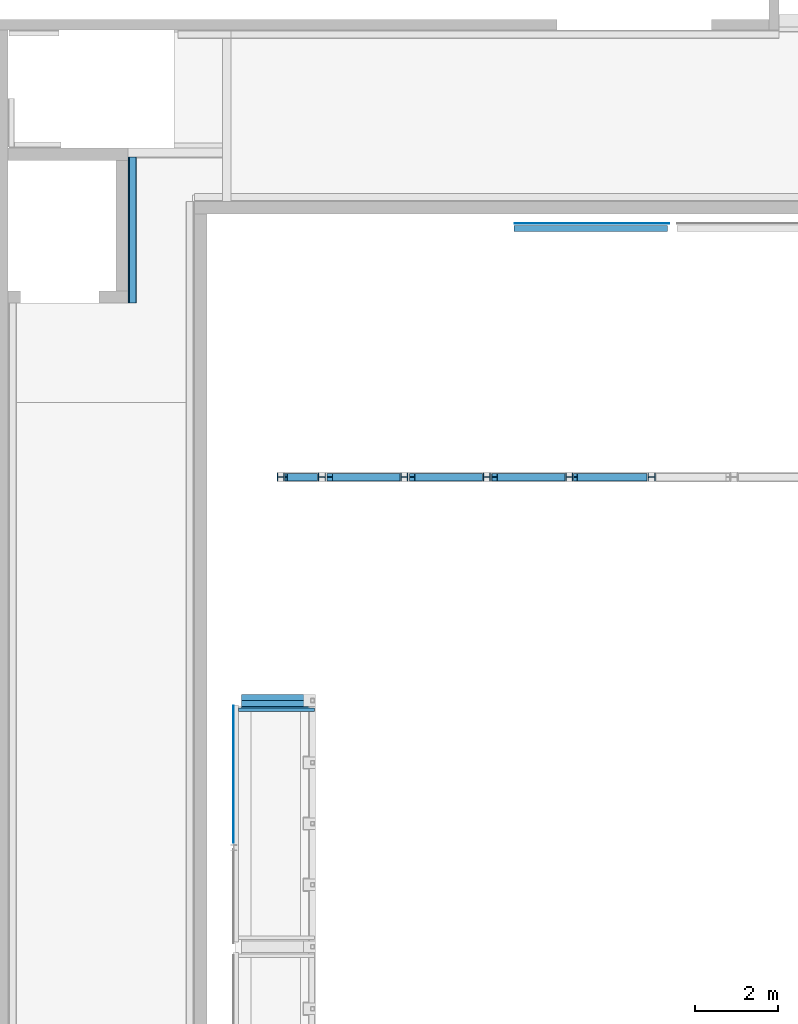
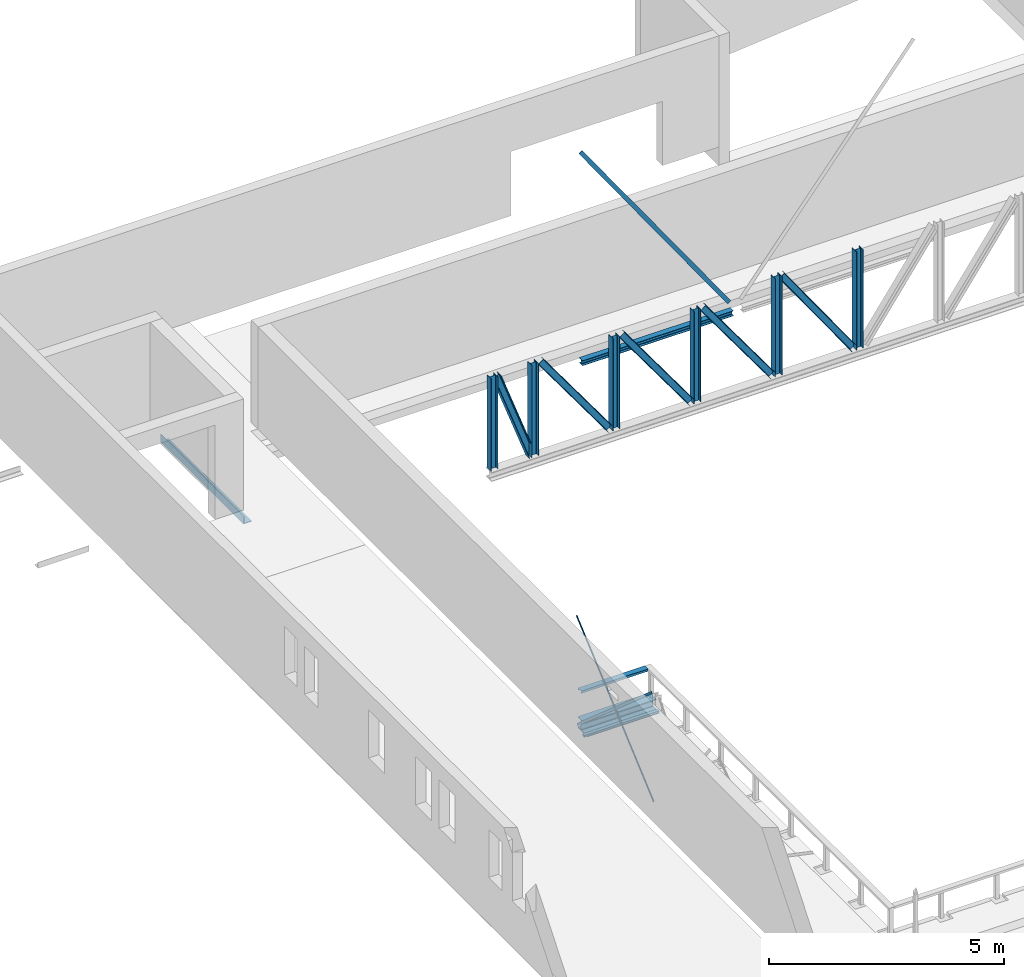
# One storey, part 19 of 68: 19 beams.
"""IFC2X3 building model written with IfcOpenShell, lengths in millimetres."""

import ifcopenshell
import ifcopenshell.guid

model = None  # the IFC model being written
_history = None  # IfcOwnerHistory: only IFC2X3 demands one
_inside = {}  # id of a spatial element -> (the spatial element, [elements in it])
_under = {}  # id of a project, library or spatial element -> (it, [spatial elements below it])
_declared = {}  # id of a project -> (the project, [libraries it declares])
_typed = {}  # id of a type object -> (the type object, [elements of that type])
_made_of = {}  # id of a material, layer set ... -> (it, [elements and type objects made of it])


def new_model(schema):
    """Start an empty IFC model of exactly this schema.

    Asked for "IFC4X3", IfcOpenShell would pick the latest addendum, in which some entities
    have other attributes; the version numbers below select the first issue.
    IFC2X3 requires an IfcOwnerHistory on every rooted entity: one is made here for all.
    """
    global model, _history
    if schema == "IFC4X3":
        model = ifcopenshell.file(schema_version=(4, 3, 0, 0))
    else:
        model = ifcopenshell.file(schema=schema)
    _inside.clear()
    _under.clear()
    _declared.clear()
    _typed.clear()
    _made_of.clear()
    _history = None
    if model.schema == "IFC2X3":
        org = make("IfcOrganization", Name="unknown")
        user = make(
            "IfcPersonAndOrganization",
            ThePerson=make("IfcPerson", FamilyName="unknown"),
            TheOrganization=org,
        )
        app = make(
            "IfcApplication",
            ApplicationDeveloper=org,
            Version="unknown",
            ApplicationFullName="unknown",
            ApplicationIdentifier="unknown",
        )
        _history = make(
            "IfcOwnerHistory",
            OwningUser=user,
            OwningApplication=app,
            ChangeAction="ADDED",
            CreationDate=0,
        )
    return model


def make(cls, **values):
    """One entity of the class cls with the attributes given. An attribute that is None is left unset."""
    return model.create_entity(
        cls, **{name: value for name, value in values.items() if value is not None}
    )


def entity(cls, *values):
    """Any entity or typed value of the class cls, its attributes in the order of the schema. None: left unset."""
    e = model.create_entity(cls)
    for i, value in enumerate(values):
        if value is not None:
            e[i] = value
    return e


def rooted(cls, **values):
    """An entity with a GlobalId (a new one), such as an element, a storey or a relation."""
    return make(cls, GlobalId=ifcopenshell.guid.new(), OwnerHistory=_history, **values)


def si_unit(unit_type, name, prefix=None):
    """IfcSIUnit, for example si_unit("LENGTHUNIT", "METRE", prefix="MILLI")."""
    return make("IfcSIUnit", UnitType=unit_type, Prefix=prefix, Name=name)


def converted_unit(unit_type, name, factor, base, dimensions=None, offset=None):
    """IfcConversionBasedUnit, such as the inch: factor (a typed value) times the base unit."""
    return make(
        "IfcConversionBasedUnit"
        if offset is None
        else "IfcConversionBasedUnitWithOffset",
        ConversionOffset=offset,
        Dimensions=None
        if dimensions is None
        else entity("IfcDimensionalExponents", *dimensions),
        UnitType=unit_type,
        Name=name,
        ConversionFactor=make(
            "IfcMeasureWithUnit", ValueComponent=factor, UnitComponent=base
        ),
    )


def derived_unit(unit_type, elements):
    """IfcDerivedUnit: a product of units, each with its exponent."""
    return make(
        "IfcDerivedUnit",
        Elements=[
            make("IfcDerivedUnitElement", Unit=unit, Exponent=power)
            for unit, power in elements
        ],
        UnitType=unit_type,
    )


def assignment(units):
    """IfcUnitAssignment: the units of a project."""
    return None if units is None else make("IfcUnitAssignment", Units=units)


def point(xyz):
    """IfcCartesianPoint."""
    return None if xyz is None else make("IfcCartesianPoint", Coordinates=xyz)


def direction(xyz):
    """IfcDirection."""
    return None if xyz is None else make("IfcDirection", DirectionRatios=xyz)


def frame(location, z_axis=None, x_axis=None):
    """IfcAxis2Placement3D, a coordinate frame: its origin and axes. An axis left out is left unset."""
    return make(
        "IfcAxis2Placement3D",
        Location=point(location),
        Axis=direction(z_axis),
        RefDirection=direction(x_axis),
    )


def frame_2d(location, x_axis=None):
    """IfcAxis2Placement2D, a coordinate frame in the plane: its origin and x axis."""
    return make(
        "IfcAxis2Placement2D", Location=point(location), RefDirection=direction(x_axis)
    )


def origin():
    """The frame at (0, 0, 0) with its axes left unset."""
    return frame((0.0, 0.0, 0.0))


def place(relative_to, where):
    """IfcLocalPlacement: puts the frame where relative to a parent placement (None: the world)."""
    return make(
        "IfcLocalPlacement", PlacementRelTo=relative_to, RelativePlacement=where
    )


def context(
    kind, dimensions, precision=None, world=None, true_north=None, identifier=None
):
    """IfcGeometricRepresentationContext, for example the 3D "Model" context."""
    return make(
        "IfcGeometricRepresentationContext",
        ContextIdentifier=identifier,
        ContextType=kind,
        CoordinateSpaceDimension=dimensions,
        Precision=precision,
        WorldCoordinateSystem=world,
        TrueNorth=true_north,
    )


def subcontext(parent, identifier, kind, view, scale=None):
    """IfcGeometricRepresentationSubContext, for example "Body" below "Model"."""
    return make(
        "IfcGeometricRepresentationSubContext",
        ContextIdentifier=identifier,
        ContextType=kind,
        ParentContext=parent,
        TargetScale=scale,
        TargetView=view,
    )


def project(units=None, contexts=None):
    """IfcProject with its units and contexts."""
    return rooted(
        "IfcProject",
        Name="project",
        RepresentationContexts=contexts,
        UnitsInContext=assignment(units),
    )


def spatial(cls, under=None, at=None, **own):
    """A site, building, storey or space (cls), placed at a placement, below another one or the project."""
    s = rooted(cls, ObjectPlacement=at, **own)
    if under is not None:
        _under.setdefault(under.id(), (under, []))[1].append(s)
    return s


def polyline(points):
    """IfcPolyline through the points."""
    return make("IfcPolyline", Points=[point(p) for p in points])


def circle_curve(where, radius):
    """IfcCircle in the frame where."""
    return make("IfcCircle", Position=where, Radius=radius)


def parameter(value):
    """IfcParameterValue: where a trimmed curve begins or ends, as a parameter of its basis curve."""
    return model.create_entity("IfcParameterValue", value)


def trimmed(basis, trim1, trim2, sense, master):
    """IfcTrimmedCurve: the piece of a basis curve between two trims."""
    return make(
        "IfcTrimmedCurve",
        BasisCurve=basis,
        Trim1=trim1,
        Trim2=trim2,
        SenseAgreement=sense,
        MasterRepresentation=master,
    )


def segment(curve, same_sense, transition):
    """IfcCompositeCurveSegment."""
    return make(
        "IfcCompositeCurveSegment",
        Transition=transition,
        SameSense=same_sense,
        ParentCurve=curve,
    )


def composite_curve(segments, self_intersect=None):
    """IfcCompositeCurve: segments joined end to end."""
    return make("IfcCompositeCurve", Segments=segments, SelfIntersect=self_intersect)


def profile(cls, at=None, kind="AREA", **sizes):
    """A parametric profile (cls). Its sizes go by their IFC names, for example OverallWidth=200.0."""
    return make(cls, ProfileType=kind, Position=at, **sizes)


def rectangle(**sizes):
    """IfcRectangleProfileDef."""
    return profile("IfcRectangleProfileDef", **sizes)


def i_section(**sizes):
    """IfcIShapeProfileDef."""
    return profile("IfcIShapeProfileDef", **sizes)


def outline(outer, holes=None, kind="AREA"):
    """IfcArbitraryClosedProfileDef: a profile drawn as a closed curve; with holes, ...WithVoids."""
    if holes is None:
        return make("IfcArbitraryClosedProfileDef", ProfileType=kind, OuterCurve=outer)
    return make(
        "IfcArbitraryProfileDefWithVoids",
        ProfileType=kind,
        OuterCurve=outer,
        InnerCurves=holes,
    )


def extrude(swept, where, along, depth):
    """IfcExtrudedAreaSolid: the profile swept, set in the frame where, extruded along a direction by depth."""
    return make(
        "IfcExtrudedAreaSolid",
        SweptArea=swept,
        Position=where,
        ExtrudedDirection=direction(along),
        Depth=depth,
    )


def clip(a, b, op="DIFFERENCE"):
    """IfcBooleanClippingResult: the solid a cut by the half space b."""
    return make(
        "IfcBooleanClippingResult", Operator=op, FirstOperand=a, SecondOperand=b
    )


def halfspace(plane, agree):
    """IfcHalfSpaceSolid: all space on one side of the plane z = 0 of the frame plane."""
    return make(
        "IfcHalfSpaceSolid",
        BaseSurface=make("IfcPlane", Position=plane),
        AgreementFlag=agree,
    )


def shape(context_of_items, identifier, shape_type, items):
    """IfcShapeRepresentation: the items that make up one representation, for example the "Body"."""
    return make(
        "IfcShapeRepresentation",
        ContextOfItems=context_of_items,
        RepresentationIdentifier=identifier,
        RepresentationType=shape_type,
        Items=items,
    )


def source(mapping_origin, context_of_items, identifier, shape_type, items):
    """IfcRepresentationMap: a shape defined once, which mapped items show again and again."""
    return make(
        "IfcRepresentationMap",
        MappingOrigin=mapping_origin,
        MappedRepresentation=shape(context_of_items, identifier, shape_type, items),
    )


def transform(
    local_origin,
    x_axis=None,
    y_axis=None,
    z_axis=None,
    scale=None,
    scale2=None,
    scale3=None,
    uniform=True,
):
    """IfcCartesianTransformationOperator3D, or its non-uniform kind. x_axis, y_axis, z_axis: its Axis1, 2, 3."""
    if uniform:
        return make(
            "IfcCartesianTransformationOperator3D",
            Axis1=direction(x_axis),
            Axis2=direction(y_axis),
            LocalOrigin=point(local_origin),
            Scale=scale,
            Axis3=direction(z_axis),
        )
    return make(
        "IfcCartesianTransformationOperator3DnonUniform",
        Axis1=direction(x_axis),
        Axis2=direction(y_axis),
        LocalOrigin=point(local_origin),
        Scale=scale,
        Axis3=direction(z_axis),
        Scale2=scale2,
        Scale3=scale3,
    )


def mapped(mapping_source, mapping_target):
    """IfcMappedItem: shows the shape of a source again, moved by a transform."""
    return make(
        "IfcMappedItem", MappingSource=mapping_source, MappingTarget=mapping_target
    )


def material(Name=None, Category=None):
    """IfcMaterial."""
    return make("IfcMaterial", Name=Name, Category=Category)


def material_list(materials):
    """IfcMaterialList."""
    return make("IfcMaterialList", Materials=materials)


def made_of(thing, what):
    """Note that an element or type object is made of a material, layer set ...; save() writes the relation."""
    if what is not None:
        _made_of.setdefault(what.id(), (what, []))[1].append(thing)
    return thing


def type_object(cls, material=None, **own):
    """A type object (cls), such as IfcWallType, which elements share."""
    return made_of(rooted(cls, **own), material)


def type_shapes(of_type, sources):
    """Give a type object the sources (RepresentationMaps) that its elements show as mapped items."""
    of_type.RepresentationMaps = sources


def element(
    cls,
    number,
    at=None,
    inside=None,
    cuts=None,
    type_object=None,
    material=None,
    context=None,
    identifier="Body",
    shape_type=None,
    held_by="IfcProductDefinitionShape",
    body=None,
    shapes=None,
    **own,
):
    """One element of the class cls, such as IfcWall. Its Tag is "e" and its number.

    at: its placement. inside: the storey or other place that contains it. cuts: it is an
    opening in that element (IfcRelVoidsElement). A single representation is given by context,
    identifier, shape_type and body (its items); several are given by shapes. held_by: the class
    of the entity that holds the representations. save() writes the other relations.
    """
    e = rooted(cls, Tag="e%d" % number, ObjectPlacement=at, **own)
    if body is not None:
        shapes = [shape(context, identifier, shape_type, body)]
    if shapes is not None:
        e.Representation = make(held_by, Representations=shapes)
    if inside is not None:
        _inside.setdefault(inside.id(), (inside, []))[1].append(e)
    if cuts is not None:
        rooted(
            "IfcRelVoidsElement", RelatingBuildingElement=cuts, RelatedOpeningElement=e
        )
    if type_object is not None:
        _typed.setdefault(type_object.id(), (type_object, []))[1].append(e)
    return made_of(e, material)


def aggregate(whole, parts):
    """IfcRelAggregates: a whole, such as a stair, and the parts it consists of."""
    return rooted("IfcRelAggregates", RelatingObject=whole, RelatedObjects=parts)


def save(model, path):
    """Write the relations noted so far, then the file.

    IfcRelAggregates (storeys below a building ...), IfcRelContainedInSpatialStructure (elements
    in a storey), IfcRelDefinesByType, IfcRelAssociatesMaterial and IfcRelDeclares: one each for
    every whole, place, type object, material and project.
    """
    for whole, parts in _under.values():
        aggregate(whole, parts)
    for where, things in _inside.values():
        rooted(
            "IfcRelContainedInSpatialStructure",
            RelatedElements=things,
            RelatingStructure=where,
        )
    for kind, things in _typed.values():
        rooted("IfcRelDefinesByType", RelatedObjects=things, RelatingType=kind)
    for what, things in _made_of.values():
        rooted("IfcRelAssociatesMaterial", RelatedObjects=things, RelatingMaterial=what)
    for by, libraries in _declared.values():
        rooted("IfcRelDeclares", RelatingContext=by, RelatedDefinitions=libraries)
    model.write(path)


model = new_model("IFC2X3")

# Units and contexts
model_context = context("Model", 3, precision=0.01, world=origin(), true_north=direction((6.12303176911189e-17, 1.0)))
body_context = subcontext(model_context, "Body", "Model", "MODEL_VIEW")
ifc_project = project(units=[si_unit("LENGTHUNIT", "METRE", prefix="MILLI"), si_unit("AREAUNIT", "SQUARE_METRE", prefix="MILLI"), si_unit("VOLUMEUNIT", "CUBIC_METRE"), converted_unit("PLANEANGLEUNIT", "DEGREE", entity("IfcRatioMeasure", 0.0174532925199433), si_unit("PLANEANGLEUNIT", "RADIAN"), dimensions=[0, 0, 0, 0, 0, 0, 0]), si_unit("MASSUNIT", "GRAM", prefix="KILO"), derived_unit("MASSDENSITYUNIT", [(si_unit("MASSUNIT", "GRAM", prefix="KILO"), 1), (si_unit("LENGTHUNIT", "METRE"), -3)]), derived_unit("MOMENTOFINERTIAUNIT", [(si_unit("LENGTHUNIT", "METRE"), 4)]), si_unit("TIMEUNIT", "SECOND"), si_unit("FREQUENCYUNIT", "HERTZ"), si_unit("THERMODYNAMICTEMPERATUREUNIT", "DEGREE_CELSIUS"), derived_unit("THERMALTRANSMITTANCEUNIT", [(si_unit("MASSUNIT", "GRAM", prefix="KILO"), 1), (si_unit("THERMODYNAMICTEMPERATUREUNIT", "KELVIN"), -1), (si_unit("TIMEUNIT", "SECOND"), -3)]), derived_unit("VOLUMETRICFLOWRATEUNIT", [(si_unit("LENGTHUNIT", "METRE"), 3), (si_unit("TIMEUNIT", "SECOND"), -1)]), si_unit("ELECTRICCURRENTUNIT", "AMPERE"), si_unit("ELECTRICVOLTAGEUNIT", "VOLT"), si_unit("POWERUNIT", "WATT"), si_unit("FORCEUNIT", "NEWTON", prefix="KILO"), si_unit("ILLUMINANCEUNIT", "LUX"), si_unit("LUMINOUSFLUXUNIT", "LUMEN"), si_unit("LUMINOUSINTENSITYUNIT", "CANDELA"), derived_unit("USERDEFINED", [(si_unit("MASSUNIT", "GRAM", prefix="KILO"), -1), (si_unit("LENGTHUNIT", "METRE"), -2), (si_unit("TIMEUNIT", "SECOND"), 3), (si_unit("LUMINOUSFLUXUNIT", "LUMEN"), 1)]), derived_unit("LINEARVELOCITYUNIT", [(si_unit("LENGTHUNIT", "METRE"), 1), (si_unit("TIMEUNIT", "SECOND"), -1)]), si_unit("PRESSUREUNIT", "PASCAL"), derived_unit("USERDEFINED", [(si_unit("LENGTHUNIT", "METRE"), -2), (si_unit("MASSUNIT", "GRAM", prefix="KILO"), 1), (si_unit("TIMEUNIT", "SECOND"), -2)]), derived_unit("LINEARFORCEUNIT", [(si_unit("MASSUNIT", "GRAM", prefix="KILO"), 1), (si_unit("LENGTHUNIT", "METRE"), 1), (si_unit("TIMEUNIT", "SECOND"), -2), (si_unit("LENGTHUNIT", "METRE"), -1)]), derived_unit("PLANARFORCEUNIT", [(si_unit("MASSUNIT", "GRAM", prefix="KILO"), 1), (si_unit("LENGTHUNIT", "METRE"), 1), (si_unit("TIMEUNIT", "SECOND"), -2), (si_unit("LENGTHUNIT", "METRE"), -2)])], contexts=[model_context])

# Site, building, storey
site_placement = place(None, origin())
site = spatial("IfcSite", under=ifc_project, at=site_placement, Name="Theater aan de Parade", CompositionType="ELEMENT")
building_placement = place(site_placement, origin())
building = spatial("IfcBuilding", under=site, at=building_placement, Name="Theater aan de Parade", CompositionType="ELEMENT")
storey_placement = place(building_placement, frame((0.0, 0.0, 8750.0)))
storey = spatial("IfcBuildingStorey", under=building, at=storey_placement, Name="02 tweede verdieping", CompositionType="ELEMENT", Elevation=8750.0)

# Beams
ifc_material_1 = material(Name="00_PBT_MAT_staal_S355")
beam_type_1 = type_object("IfcBeamType", Name="28_PBT_SF_staal_H-profiel:S355_HE180A", PredefinedType="NOTDEFINED")
for number, where, z_axis, x_axis in (
    (1, (17139.8569884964, 34918.2922984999, 2720.0), (1.0, 0.0, 0.0), (0.0, 0.0, 1.0)),
    (2, (18135.8569884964, 34918.2922984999, 2720.0), (1.0, 0.0, 0.0), (0.0, 0.0, 1.0)),
):
    element("IfcBeam", number, at=place(storey_placement, frame(where, z_axis=z_axis, x_axis=x_axis)), inside=storey, type_object=beam_type_1, material=ifc_material_1, Name="28_PBT_SF_staal_H-profiel:S355_HE180A", ObjectType="28_PBT_SF_staal_H-profiel:S355_HE180A", context=body_context, shape_type="SweptSolid", body=[
        extrude(i_section(OverallWidth=179.999999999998, OverallDepth=171.0, WebThickness=6.00000000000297, FlangeThickness=9.49999999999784, FilletRadius=15.0000000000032, at=frame_2d((-2.16715534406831e-12, 2.16715534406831e-12), x_axis=(0.0, 1.0))), frame((132.699999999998, 0.0, 0.0), z_axis=(1.0, 0.0, 0.0), x_axis=(0.0, 0.0, -1.0)), (0.0, 0.0, 1.0), 2394.60000000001),
    ])
beam_1_placement = place(storey_placement, frame((20127.8569884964, 34918.2922984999, 2720.0), z_axis=(1.0, 0.0, 0.0), x_axis=(0.0, 0.0, 1.0)))
element("IfcBeam", 3, at=beam_1_placement, inside=storey, type_object=beam_type_1, material=ifc_material_1, Name="28_PBT_SF_staal_H-profiel:S355_HE180A", ObjectType="28_PBT_SF_staal_H-profiel:S355_HE180A", context=body_context, shape_type="SweptSolid", body=[
    extrude(i_section(OverallWidth=179.999999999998, OverallDepth=171.0, WebThickness=6.00000000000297, FlangeThickness=9.49999999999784, FilletRadius=15.0000000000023, at=frame_2d((2.16715534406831e-12, 6.49436060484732e-12), x_axis=(0.0, 1.0))), frame((132.699999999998, 0.0, 0.0), z_axis=(1.0, 0.0, 0.0), x_axis=(0.0, 0.0, -1.0)), (0.0, 0.0, 1.0), 2394.60000000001),
])
beam_2_placement = place(storey_placement, frame((22119.8569884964, 34918.2922984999, 2720.0), z_axis=(1.0, 0.0, 0.0), x_axis=(0.0, 0.0, 1.0)))
element("IfcBeam", 4, at=beam_2_placement, inside=storey, type_object=beam_type_1, material=ifc_material_1, Name="28_PBT_SF_staal_H-profiel:S355_HE180A", ObjectType="28_PBT_SF_staal_H-profiel:S355_HE180A", context=body_context, shape_type="SweptSolid", body=[
    extrude(i_section(OverallWidth=179.999999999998, OverallDepth=171.0, WebThickness=6.00000000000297, FlangeThickness=9.49999999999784, FilletRadius=15.0000000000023, at=frame_2d((2.16715534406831e-12, -2.16715534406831e-12), x_axis=(0.0, 1.0))), frame((132.699999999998, 0.0, 0.0), z_axis=(1.0, 0.0, 0.0), x_axis=(0.0, 0.0, -1.0)), (0.0, 0.0, 1.0), 2394.60000000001),
])
beam_3_placement = place(storey_placement, frame((24111.8569884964, 34918.2922984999, 2720.0), z_axis=(1.0, 0.0, 0.0), x_axis=(0.0, 0.0, 1.0)))
element("IfcBeam", 5, at=beam_3_placement, inside=storey, type_object=beam_type_1, material=ifc_material_1, Name="28_PBT_SF_staal_H-profiel:S355_HE180A", ObjectType="28_PBT_SF_staal_H-profiel:S355_HE180A", context=body_context, shape_type="SweptSolid", body=[
    extrude(i_section(OverallWidth=179.999999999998, OverallDepth=171.0, WebThickness=6.00000000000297, FlangeThickness=9.49999999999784, FilletRadius=15.0000000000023, at=frame_2d((2.16715534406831e-12, -2.16715534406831e-12), x_axis=(0.0, 1.0))), frame((132.7, 0.0, 0.0), z_axis=(1.0, 0.0, 0.0), x_axis=(0.0, 0.0, -1.0)), (0.0, 0.0, 1.0), 2554.59999999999),
])
beam_4_placement = place(storey_placement, frame((26103.8569884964, 34918.2922984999, 2720.0), z_axis=(1.0, 0.0, 0.0), x_axis=(0.0, 0.0, 1.0)))
element("IfcBeam", 6, at=beam_4_placement, inside=storey, type_object=beam_type_1, material=ifc_material_1, Name="28_PBT_SF_staal_H-profiel:S355_HE180A", ObjectType="28_PBT_SF_staal_H-profiel:S355_HE180A", context=body_context, shape_type="SweptSolid", body=[
    extrude(i_section(OverallWidth=179.999999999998, OverallDepth=171.0, WebThickness=6.00000000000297, FlangeThickness=9.49999999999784, FilletRadius=15.0000000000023, at=frame_2d((2.16715534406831e-12, -6.49436060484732e-12), x_axis=(0.0, 1.0))), frame((132.699999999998, 0.0, 0.0), z_axis=(1.0, 0.0, 0.0), x_axis=(0.0, 0.0, -1.0)), (0.0, 0.0, 1.0), 2554.59999999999),
])
beam_5_placement = place(storey_placement, frame((24111.8569884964, 34918.2922984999, 5540.0), z_axis=(0.816775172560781, 0.0, 0.5769560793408), x_axis=(0.5769560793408, 0.0, -0.816775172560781)))
element("IfcBeam", 7, at=beam_5_placement, inside=storey, type_object=beam_type_1, material=ifc_material_1, Name="28_PBT_SF_staal_H-profiel:S355_HE180A", ObjectType="28_PBT_SF_staal_H-profiel:S355_HE180A", context=body_context, shape_type="Clipping", body=[
    clip(clip(extrude(i_section(OverallWidth=179.999999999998, OverallDepth=170.999999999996, WebThickness=6.00000000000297, FlangeThickness=9.49999999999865, FilletRadius=14.9999999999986, at=frame_2d((5.41433564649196e-12, 2.16715534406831e-12), x_axis=(0.0, 1.0))), frame((220.014999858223, 0.0, 0.0), z_axis=(1.0, 0.0, 0.0), x_axis=(0.0, 0.0, -1.0)), (0.0, 0.0, 1.0), 3012.5724969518), halfspace(frame((2272.12429104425, 110.0, -1475.82341289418), z_axis=(-0.5769560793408, 0.0, -0.816775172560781), x_axis=(-0.816775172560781, 0.0, 0.5769560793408)), False)), halfspace(frame((3299.68306835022, -110.0, -21.1468305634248), z_axis=(0.5769560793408, 0.0, 0.816775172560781), x_axis=(-0.816775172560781, 0.0, 0.5769560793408)), False)),
])
beam_6_placement = place(storey_placement, frame((17139.8569884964, 34918.2922984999, 5460.0), z_axis=(0.939833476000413, 0.0, 0.34163289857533), x_axis=(0.34163289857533, 0.0, -0.939833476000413)))
element("IfcBeam", 8, at=beam_6_placement, inside=storey, type_object=beam_type_1, material=ifc_material_1, Name="28_PBT_SF_staal_H-profiel:S355_HE180A", ObjectType="28_PBT_SF_staal_H-profiel:S355_HE180A", context=body_context, shape_type="Clipping", body=[
    clip(clip(extrude(outline(composite_curve([segment(polyline([(76.0, -90.0), (85.5000000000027, -90.0)]), True, "CONTINUOUS"), segment(polyline([(85.5000000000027, -90.0), (85.5000000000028, 90.0)]), True, "CONTINUOUS"), segment(polyline([(85.5000000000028, 90.0), (76.0, 90.0)]), True, "CONTINUOUS"), segment(polyline([(76.0, 90.0), (76.0, 18.0)]), True, "CONTINUOUS"), segment(trimmed(circle_curve(frame_2d((61.0, 18.0), x_axis=(1.0, 0.0)), 15.0000000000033), [parameter(270.000000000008)], [parameter(0.0)], True, "PARAMETER"), False, "CONTINUOUS"), segment(polyline([(61.0, 3.0), (-61.0, 3.0)]), True, "CONTINUOUS"), segment(trimmed(circle_curve(frame_2d((-61.0, 18.0), x_axis=(0.0, -1.0)), 15.0000000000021), [parameter(270.000000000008)], [parameter(0.0)], True, "PARAMETER"), False, "CONTINUOUS"), segment(polyline([(-76.0, 18.0), (-76.0, 90.0)]), True, "CONTINUOUS"), segment(polyline([(-76.0, 90.0), (-85.4999999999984, 90.0)]), True, "CONTINUOUS"), segment(polyline([(-85.4999999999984, 90.0), (-85.4999999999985, -90.0)]), True, "CONTINUOUS"), segment(polyline([(-85.4999999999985, -90.0), (-76.0, -90.0)]), True, "CONTINUOUS"), segment(polyline([(-76.0, -90.0), (-76.0, -18.0)]), True, "CONTINUOUS"), segment(trimmed(circle_curve(frame_2d((-61.0, -18.0), x_axis=(-1.0, 0.0)), 15.000000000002), [parameter(270.000000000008)], [parameter(0.0)], True, "PARAMETER"), False, "CONTINUOUS"), segment(polyline([(-61.0, -3.0), (61.0, -3.0)]), True, "CONTINUOUS"), segment(trimmed(circle_curve(frame_2d((61.0, -18.0), x_axis=(0.0, 1.0)), 15.0000000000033), [parameter(270.000000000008)], [parameter(0.0)], True, "PARAMETER"), False, "CONTINUOUS"), segment(polyline([(76.0, -18.0), (76.0, -90.0)]), True, "CONTINUOUS")], self_intersect=False)), frame((256.58321833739, 0.0, 0.0), z_axis=(1.0, 0.0, 0.0), x_axis=(0.0, 0.0, -1.0)), (0.0, 0.0, 1.0), 2487.36511706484), halfspace(frame((2505.2667622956, 110.0, -798.419682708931), z_axis=(-0.34163289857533, 0.0, -0.939833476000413), x_axis=(-0.939833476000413, 0.0, 0.34163289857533)), False)), halfspace(frame((2773.44858767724, -110.0, -60.6504040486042), z_axis=(0.34163289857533, 0.0, 0.939833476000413), x_axis=(-0.939833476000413, 0.0, 0.34163289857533)), False)),
])
beam_7_placement = place(storey_placement, frame((18135.8569884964, 34918.2922984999, 5460.0), z_axis=(0.808838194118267, 0.0, 0.5880312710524), x_axis=(0.5880312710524, 0.0, -0.808838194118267)))
element("IfcBeam", 9, at=beam_7_placement, inside=storey, type_object=beam_type_1, material=ifc_material_1, Name="28_PBT_SF_staal_H-profiel:S355_HE180A", ObjectType="28_PBT_SF_staal_H-profiel:S355_HE180A", context=body_context, shape_type="Clipping", body=[
    clip(extrude(i_section(OverallWidth=179.999999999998, OverallDepth=170.999999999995, WebThickness=6.00000000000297, FlangeThickness=9.50000000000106, FilletRadius=14.9999999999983, at=frame_2d((-1.51345602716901e-12, 2.16715534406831e-12), x_axis=(0.0, 1.0))), frame((322.127368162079, 0.0, 0.0), z_axis=(1.0, 0.0, 0.0), x_axis=(0.0, 0.0, -1.0)), (0.0, 0.0, 1.0), 2842.22750512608), halfspace(frame((3234.38158024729, -110.0, -19.0613052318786), z_axis=(0.5880312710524, 0.0, 0.808838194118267), x_axis=(-0.808838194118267, 0.0, 0.5880312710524)), False)),
])
beam_8_placement = place(storey_placement, frame((20127.8569884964, 34918.2922984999, 5460.0), z_axis=(0.808838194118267, 0.0, 0.588031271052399), x_axis=(0.588031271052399, 0.0, -0.808838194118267)))
element("IfcBeam", 10, at=beam_8_placement, inside=storey, type_object=beam_type_1, material=ifc_material_1, Name="28_PBT_SF_staal_H-profiel:S355_HE180A", ObjectType="28_PBT_SF_staal_H-profiel:S355_HE180A", context=body_context, shape_type="Clipping", body=[
    clip(extrude(i_section(OverallWidth=179.999999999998, OverallDepth=170.999999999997, WebThickness=6.00000000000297, FlangeThickness=9.50000000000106, FilletRadius=15.0000000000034, at=frame_2d((6.46593889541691e-13, 2.16715534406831e-12), x_axis=(0.0, 1.0))), frame((322.127368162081, 0.0, 0.0), z_axis=(1.0, 0.0, 0.0), x_axis=(0.0, 0.0, -1.0)), (0.0, 0.0, 1.0), 2842.22750512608), halfspace(frame((3234.38158024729, -110.0, -19.0613052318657), z_axis=(0.588031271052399, 0.0, 0.808838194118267), x_axis=(-0.808838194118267, 0.0, 0.588031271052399)), False)),
])
beam_9_placement = place(storey_placement, frame((22119.8569884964, 34918.2922984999, 5460.0), z_axis=(0.808838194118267, 0.0, 0.5880312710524), x_axis=(0.5880312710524, 0.0, -0.808838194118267)))
element("IfcBeam", 11, at=beam_9_placement, inside=storey, type_object=beam_type_1, material=ifc_material_1, Name="28_PBT_SF_staal_H-profiel:S355_HE180A", ObjectType="28_PBT_SF_staal_H-profiel:S355_HE180A", context=body_context, shape_type="Clipping", body=[
    clip(extrude(i_section(OverallWidth=179.999999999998, OverallDepth=170.999999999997, WebThickness=6.00000000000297, FlangeThickness=9.50000000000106, FilletRadius=15.0000000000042, at=frame_2d((-6.46593889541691e-13, -6.49436060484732e-12), x_axis=(0.0, 1.0))), frame((322.127368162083, 0.0, 0.0), z_axis=(1.0, 0.0, 0.0), x_axis=(0.0, 0.0, -1.0)), (0.0, 0.0, 1.0), 2842.22750512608), halfspace(frame((3234.3815802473, -110.0, -19.0613052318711), z_axis=(0.5880312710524, 0.0, 0.808838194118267), x_axis=(-0.808838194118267, 0.0, 0.5880312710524)), False)),
])
ifc_material_2 = material(Name="00_PBT_MAT_Lucht")
ifc_material_list = material_list([ifc_material_2, ifc_material_1])
beam_type_2 = type_object("IfcBeamType", Name="28_PBT_SF_staal_H-profiel_met_ondergelaste_strip (void):S355_HE280B + ondergelaste strip d=12", PredefinedType="BEAM", material=ifc_material_list)
shared_shape = source(origin(), body_context, "Body", "SweptSolid", [
    extrude(i_section(OverallWidth=280.000000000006, OverallDepth=280.0, WebThickness=10.4999999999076, FlangeThickness=17.9999999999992, FilletRadius=23.9999999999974, at=frame_2d((-5.40012479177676e-13, 2.17426077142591e-12), x_axis=(0.0, 1.0))), frame((16193.8570032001, 29518.2922984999, 8540.0), z_axis=(1.0, 0.0, 0.0), x_axis=(0.0, 0.0, -1.0)), (0.0, 0.0, 1.0), 1766.99999999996),
    extrude(rectangle(XDim=12.0000000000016, YDim=400.0, at=frame_2d((0.0, 6.50857145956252e-12), x_axis=(1.0, 0.0))), frame((16194.8570032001, 29453.2922984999, 8394.0), z_axis=(1.0, 0.0, 0.0), x_axis=(0.0, 0.0, -1.0)), (0.0, 0.0, 1.0), 1764.99999999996),
])
type_shapes(beam_type_2, [shared_shape])
beam_10_placement = place(storey_placement, frame((0.0, 0.0, -8750.0)))
element("IfcBeam", 12, at=beam_10_placement, inside=storey, type_object=beam_type_2, material=ifc_material_1, Name="28_PBT_SF_staal_H-profiel_met_ondergelaste_strip (void):S355_HE280B + ondergelaste strip d=12", ObjectType="28_PBT_SF_staal_H-profiel_met_ondergelaste_strip (void):S355_HE280B + ondergelaste strip d=12", context=body_context, shape_type="MappedRepresentation", body=[
    mapped(shared_shape, transform((0.0, 0.0, 0.0), scale=1.0)),
])
beam_type_3 = type_object("IfcBeamType", Name="28_PBT_SF_staal_H-profiel:S355_HE140A", PredefinedType="NOTDEFINED")
beam_11_placement = place(storey_placement, frame((22773.8570032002, 40923.3083270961, 0.0)))
element("IfcBeam", 13, at=beam_11_placement, inside=storey, type_object=beam_type_3, material=ifc_material_1, Name="28_PBT_SF_staal_H-profiel:S355_HE140A", ObjectType="28_PBT_SF_staal_H-profiel:S355_HE140A", context=body_context, shape_type="SweptSolid", body=[
    extrude(i_section(OverallWidth=139.999999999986, OverallDepth=133.0, WebThickness=5.50000000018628, FlangeThickness=8.49999999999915, FilletRadius=11.9999999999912, at=frame_2d((-1.08713038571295e-12, 8.66862137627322e-12), x_axis=(0.0, 1.0))), frame((0.0, 0.0, -1.50000000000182), z_axis=(1.0, 0.0, 0.0), x_axis=(0.0, 0.0, -1.0)), (0.0, 0.0, 1.0), 3710.0),
])
ifc_material_3 = material(Name="00_PBT_MAT_staal")
beam_type_4 = type_object("IfcBeamType", Name="28_PBT_SF_staal_strip:strip 6x100", PredefinedType="NOTDEFINED")
beam_12_placement = place(storey_placement, frame((22696.4326895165, 41043.308327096, 5539.62940162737), z_axis=(0.817215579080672, 0.0, 0.576332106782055), x_axis=(0.576332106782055, 0.0, -0.817215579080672)))
element("IfcBeam", 14, at=beam_12_placement, inside=storey, type_object=beam_type_4, material=ifc_material_3, Name="28_PBT_SF_staal_strip:strip 6x100", ObjectType="28_PBT_SF_staal_strip:strip 6x100", context=body_context, shape_type="SweptSolid", body=[
    extrude(rectangle(XDim=100.000000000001, YDim=5.99999999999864, at=frame_2d((-6.21724893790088e-13, 4.33142410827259e-12), x_axis=(1.0, 0.0))), frame((241.751871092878, 3.0, 0.0), z_axis=(1.0, 0.0, 0.0), x_axis=(0.0, 0.0, -1.0)), (0.0, 0.0, 1.0), 6334.06873777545),
])
beam_type_5 = type_object("IfcBeamType", Name="28_PBT_SF_staal_UNP-profiel:S355_UNP140", PredefinedType="NOTDEFINED")
beam_13_placement = place(storey_placement, frame((16193.8570032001, 29588.2922984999, 0.0)))
element("IfcBeam", 15, at=beam_13_placement, inside=storey, type_object=beam_type_5, material=ifc_material_1, Name="28_PBT_SF_staal_UNP-profiel:S355_UNP140", ObjectType="28_PBT_SF_staal_UNP-profiel:S355_UNP140", context=body_context, shape_type="SweptSolid", body=[
    extrude(outline(composite_curve([segment(polyline([(-33.1002123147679, -70.0), (26.8997876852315, -70.0)]), True, "CONTINUOUS"), segment(polyline([(26.8997876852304, -70.0), (26.8997876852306, -67.0159744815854)]), True, "CONTINUOUS"), segment(trimmed(circle_curve(frame_2d((21.899787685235, -67.015974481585), x_axis=(1.0, 0.0)), 4.99999999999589), [parameter(0.0)], [parameter(85.4260787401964)], True, "PARAMETER"), True, "CONTINUOUS"), segment(polyline([(22.2985137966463, -62.031898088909), (-16.8976645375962, -58.8962038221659)]), True, "CONTINUOUS"), segment(trimmed(circle_curve(frame_2d((-16.100212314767, -48.9280510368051), x_axis=(-0.0797452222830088, -0.996815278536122)), 10.0000000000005), [parameter(274.573921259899)], [parameter(0.0)], True, "PARAMETER"), False, "CONTINUOUS"), segment(polyline([(-26.1002123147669, -48.9280510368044), (-26.1002123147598, 48.9280510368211)]), True, "CONTINUOUS"), segment(trimmed(circle_curve(frame_2d((-16.1002123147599, 48.9280510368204), x_axis=(-1.0, 0.0)), 10.0), [parameter(274.573921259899)], [parameter(0.0)], True, "PARAMETER"), False, "CONTINUOUS"), segment(polyline([(-16.8976645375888, 58.896203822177), (22.2985137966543, 62.0318980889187)]), True, "CONTINUOUS"), segment(trimmed(circle_curve(frame_2d((21.8997876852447, 67.0159744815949), x_axis=(0.0797452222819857, -0.996815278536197)), 4.9999999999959), [parameter(0.0)], [parameter(85.4260787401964)], True, "PARAMETER"), True, "CONTINUOUS"), segment(polyline([(26.8997876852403, 67.0159744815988), (26.8997876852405, 70.0)]), True, "CONTINUOUS"), segment(polyline([(26.8997876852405, 70.0), (-33.1002123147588, 70.0)]), True, "CONTINUOUS"), segment(polyline([(-33.1002123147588, 70.0), (-33.1002123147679, -70.0)]), True, "CONTINUOUS")], self_intersect=False)), frame((0.0, 0.0, 636.899787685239), z_axis=(1.0, 0.0, 0.0), x_axis=(0.0, 0.0, -1.0)), (0.0, 0.0, 1.0), 1647.00000000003),
])
beam_type_6 = type_object("IfcBeamType", Name="28_PBT_SF_staal_L-profiel:S355_L200x200x20", PredefinedType="NOTDEFINED")
beam_14_placement = place(storey_placement, frame((13511.6570025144, 42650.0, 0.0), z_axis=(0.0, 0.0, 1.0), x_axis=(0.0, -1.0, 0.0)))
element("IfcBeam", 16, at=beam_14_placement, inside=storey, type_object=beam_type_6, material=ifc_material_1, Name="28_PBT_SF_staal_L-profiel:S355_L200x200x20", ObjectType="28_PBT_SF_staal_L-profiel:S355_L200x200x20", context=body_context, shape_type="SweptSolid", body=[
    extrude(outline(composite_curve([segment(polyline([(-124.444444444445, -75.5555555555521), (75.5555555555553, -75.5555555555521)]), True, "CONTINUOUS"), segment(polyline([(75.5555555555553, -75.5555555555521), (75.5555555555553, 124.444444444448)]), True, "CONTINUOUS"), segment(polyline([(75.5555555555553, 124.444444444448), (64.5555555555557, 124.444444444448)]), True, "CONTINUOUS"), segment(trimmed(circle_curve(frame_2d((64.5555555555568, 115.444444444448), x_axis=(0.0, 1.0)), 9.0000000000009), [parameter(0.0)], [parameter(89.9999999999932)], True, "PARAMETER"), True, "CONTINUOUS"), segment(polyline([(55.5555555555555, 115.444444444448), (55.5555555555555, -37.5555555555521)]), True, "CONTINUOUS"), segment(trimmed(circle_curve(frame_2d((37.5555555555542, -37.5555555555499), x_axis=(1.0, 0.0)), 18.0000000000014), [parameter(270.00000000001)], [parameter(0.0)], True, "PARAMETER"), False, "CONTINUOUS"), segment(polyline([(37.5555555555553, -55.5555555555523), (-115.444444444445, -55.5555555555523)]), True, "CONTINUOUS"), segment(trimmed(circle_curve(frame_2d((-115.444444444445, -64.5555555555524), x_axis=(0.0, 1.0)), 9.00000000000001), [parameter(0.0)], [parameter(90.0000000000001)], True, "PARAMETER"), True, "CONTINUOUS"), segment(polyline([(-124.444444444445, -64.5555555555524), (-124.444444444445, -75.5555555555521)]), True, "CONTINUOUS")], self_intersect=False)), frame((0.0, 18.755555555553, 215.555555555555), z_axis=(1.0, 0.0, 0.0), x_axis=(0.0, 0.0, -1.0)), (0.0, 0.0, 1.0), 3530.00000002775),
])
beam_type_7 = type_object("IfcBeamType", Name="28_PBT_SF_staal_strip:strip 6x60", PredefinedType="NOTDEFINED")
beam_15_placement = place(storey_placement, frame((16001.3570032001, 26170.4046517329, 2735.02106485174), z_axis=(0.0, 0.655932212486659, 0.75481980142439), x_axis=(0.0, 0.75481980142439, -0.655932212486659)))
element("IfcBeam", 17, at=beam_15_placement, inside=storey, type_object=beam_type_7, material=ifc_material_3, Name="28_PBT_SF_staal_strip:strip 6x60", ObjectType="28_PBT_SF_staal_strip:strip 6x60", context=body_context, shape_type="SweptSolid", body=[
    extrude(rectangle(XDim=60.0000000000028, YDim=5.99999999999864, at=frame_2d((-8.15347789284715e-13, 1.08291153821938e-12), x_axis=(1.0, 0.0))), frame((0.0, 3.0, 0.0), z_axis=(1.0, 0.0, 0.0), x_axis=(0.0, 0.0, -1.0)), (0.0, 0.0, 1.0), 4200.0),
])
beam_16_placement = place(storey_placement, frame((15996.3570032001, 29374.1201370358, 2789.71557493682), z_axis=(0.0, -0.655932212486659, 0.75481980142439), x_axis=(0.0, -0.75481980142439, -0.655932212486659)))
element("IfcBeam", 18, at=beam_16_placement, inside=storey, type_object=beam_type_7, material=ifc_material_3, Name="28_PBT_SF_staal_strip:strip 6x60", ObjectType="28_PBT_SF_staal_strip:strip 6x60", context=body_context, shape_type="SweptSolid", body=[
    extrude(rectangle(XDim=60.0000000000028, YDim=6.0000000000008, at=frame_2d((-8.18900502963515e-13, -1.08291153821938e-12), x_axis=(1.0, 0.0))), frame((0.0, 3.0, 0.0), z_axis=(1.0, 0.0, 0.0), x_axis=(0.0, 0.0, -1.0)), (0.0, 0.0, 1.0), 4340.00000000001),
])
ifc_material_4 = material(Name="00_PBT_MAT_staal_S235")
beam_type_8 = type_object("IfcBeamType", Name="28_PBT_SF_staal_koker:S235_K50x90x5", PredefinedType="NOTDEFINED")
beam_17_placement = place(storey_placement, frame((16123.8570032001, 29298.2922984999, 0.0)))
element("IfcBeam", 19, at=beam_17_placement, inside=storey, type_object=beam_type_8, material=ifc_material_4, Name="28_PBT_SF_staal_koker:S235_K50x90x5", ObjectType="28_PBT_SF_staal_koker:S235_K50x90x5", context=body_context, shape_type="SweptSolid", body=[
    extrude(outline(composite_curve([segment(polyline([(-17.4999999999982, -45.0), (17.5000000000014, -45.0)]), True, "CONTINUOUS"), segment(trimmed(circle_curve(frame_2d((17.5000000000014, -37.4999999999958), x_axis=(0.0, 1.0)), 7.5), [parameter(180.0)], [parameter(270.0)], True, "PARAMETER"), True, "CONTINUOUS"), segment(polyline([(25.0, -37.4999999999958), (25.0, 37.5000000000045)]), True, "CONTINUOUS"), segment(trimmed(circle_curve(frame_2d((17.5000000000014, 37.5000000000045), x_axis=(0.0, 1.0)), 7.5), [parameter(270.0)], [parameter(360.0)], True, "PARAMETER"), True, "CONTINUOUS"), segment(polyline([(17.5000000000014, 45.0), (-17.4999999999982, 45.0)]), True, "CONTINUOUS"), segment(trimmed(circle_curve(frame_2d((-17.4999999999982, 37.5000000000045), x_axis=(0.0, 1.0)), 7.5), [parameter(0.0)], [parameter(90.0000000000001)], True, "PARAMETER"), True, "CONTINUOUS"), segment(polyline([(-25.0, 37.5000000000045), (-25.0, -37.4999999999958)]), True, "CONTINUOUS"), segment(trimmed(circle_curve(frame_2d((-17.4999999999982, -37.4999999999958), x_axis=(0.0, 1.0)), 7.5), [parameter(89.9999999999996)], [parameter(180.0)], True, "PARAMETER"), True, "CONTINUOUS")], self_intersect=False), holes=[composite_curve([segment(polyline([(20.0, 35.0), (20.0, -35.0)]), True, "CONTINUOUS"), segment(trimmed(circle_curve(frame_2d((15.0, -35.0), x_axis=(0.0, 1.0)), 5.0), [parameter(180.0)], [parameter(270.0)], True, "PARAMETER"), False, "CONTINUOUS"), segment(polyline([(15.0, -40.0), (-15.0, -40.0)]), True, "CONTINUOUS"), segment(trimmed(circle_curve(frame_2d((-15.0, -35.0), x_axis=(0.0, 1.0)), 5.0), [parameter(90.0000000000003)], [parameter(180.0)], True, "PARAMETER"), False, "CONTINUOUS"), segment(polyline([(-20.0, -35.0), (-20.0, 35.0)]), True, "CONTINUOUS"), segment(trimmed(circle_curve(frame_2d((-15.0, 35.0), x_axis=(0.0, 1.0)), 5.0), [parameter(3.56222124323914e-13)], [parameter(90.0000000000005)], True, "PARAMETER"), False, "CONTINUOUS"), segment(polyline([(-15.0, 40.0), (15.0, 40.0)]), True, "CONTINUOUS"), segment(trimmed(circle_curve(frame_2d((15.0, 35.0), x_axis=(0.0, 1.0)), 5.0), [parameter(270.0)], [parameter(5.08888749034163e-14)], True, "PARAMETER"), False, "CONTINUOUS")], self_intersect=False)]), frame((0.0, 0.0, -325.0), z_axis=(1.0, 0.0, 0.0), x_axis=(0.0, 0.0, 1.0)), (0.0, 0.0, 1.0), 1836.99999999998),
])

save(model, "model.ifc")
